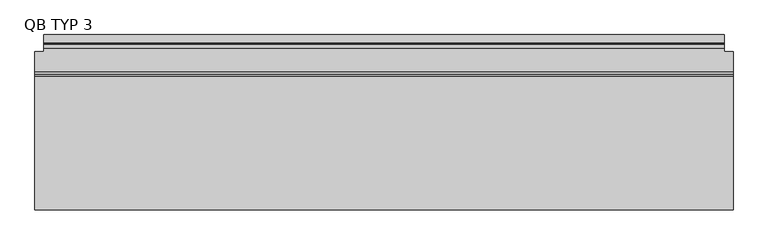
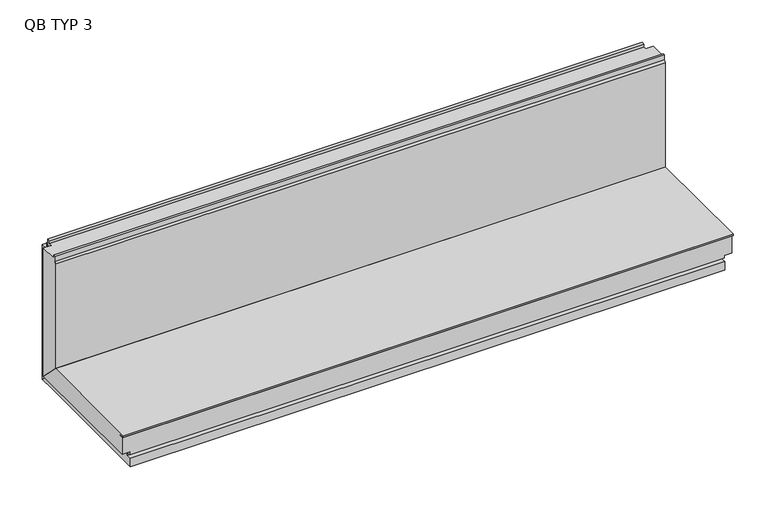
"""IFC4 building model written with IfcOpenShell, lengths in millimetres: plate geometry, TR_C_H_QBISS_Corner_Long_B : QB TYP 3."""

from ifc_helpers import new_model, si_unit, frame, origin, place, context, project, spatial, polyline, outline, extrude, faceted_brep, source, transform, mapped, element, save


def qb_typ_3_665156d4(model_context):
    return source(origin(), model_context, "Body", "SolidModel", [
        extrude(outline(polyline([(-24.0, 494.5), (-24.0, 474.5), (-25.4998317, 474.5), (-25.4998317, 481.3023028), (-27.9998293, 481.3023028), (-27.9998293, 480.5023028), (-28.7998428, 480.5023028), (-28.7998428, 488.5023593), (-27.9998293, 488.5023593), (-27.9998293, 487.7023593), (-25.4998317, 487.7023593), (-25.4998317, 494.5), (-24.0, 494.5)])), frame((-985.05, 0.0, 0.0), z_axis=(1.0, 0.0, 0.0), x_axis=(0.0, 1.0, 0.0)), (0.0, 0.0, 1.0), 1970.1),
        faceted_brep([(1010.15, -120.0, 120.0), (1010.15, -508.0, 120.0), (1010.15, -508.0, 114.0), (1010.15, -487.0, 114.0), (1010.15, -487.0, 108.0), (1010.15, -500.0, 108.0), (1010.15, -500.0, 49.0), (1010.15, -49.0, 49.0), (-1010.15, -500.0, 108.0), (-1010.15, -487.0, 108.0), (-1010.15, -487.0, 114.0), (-1010.15, -508.0, 114.0), (-1010.15, -508.0, 120.0), (-1010.15, -120.0, 120.0), (-1010.15, -49.0, 49.0), (-1010.15, -500.0, 49.0), (985.05, -49.0, 49.0), (985.05, 0.0, 0.0), (-985.05, 0.0, 0.0), (-985.05, -49.0, 49.0), (-985.05, -500.0, 49.0), (-985.05, -500.0, 39.0), (985.05, -500.0, 39.0), (985.05, -500.0, 49.0), (-985.05, -487.0, 39.0), (985.05, -487.0, 39.0), (-985.05, -487.0, 29.0), (985.05, -487.0, 29.0), (-985.05, -504.0, 29.0), (985.05, -504.0, 29.0), (-985.05, -504.0, 0.0), (985.05, -504.0, 0.0), (985.05, -49.0, 0.0), (-985.05, -49.0, 0.0)], [[[0, 1, 2, 3, 4, 5, 6, 7]], [[8, 9, 10, 11, 12, 13, 14, 15]], [[13, 0, 7, 16, 17, 18, 19, 14]], [[1, 0, 13, 12]], [[2, 1, 12, 11]], [[3, 2, 11, 10]], [[4, 3, 10, 9]], [[5, 4, 9, 8]], [[5, 8, 15, 20, 21, 22, 23, 6]], [[22, 21, 24, 25]], [[25, 24, 26, 27]], [[27, 26, 28, 29]], [[29, 28, 30, 31]], [[18, 17, 32, 31, 30, 33]], [[20, 19, 18, 33, 30, 28, 26, 24, 21]], [[19, 20, 15, 14]], [[16, 23, 22, 25, 27, 29, 31, 32, 17]], [[23, 16, 7, 6]]]),
        faceted_brep([(1010.15, -108.0, 500.0), (1010.15, -108.0, 510.0), (1010.15, -114.0, 510.0), (1010.15, -114.0, 492.0), (1010.15, -120.0, 486.0), (1010.15, -120.0, 120.0), (1010.15, -49.0, 49.0), (1010.15, -49.0, 500.0), (-1010.15, -120.0, 120.0), (-1010.15, -120.0, 486.0), (-1010.15, -114.0, 492.0), (-1010.15, -114.0, 510.0), (-1010.15, -108.0, 510.0), (-1010.15, -108.0, 500.0), (-1010.15, -49.0, 500.0), (-1010.15, -49.0, 49.0), (985.05, 0.0, 473.0), (985.05, 0.0, 0.0), (-985.05, 0.0, 0.0), (-985.05, 0.0, 473.0), (985.05, -29.0, 473.0), (-985.05, -29.0, 473.0), (985.05, -29.0, 510.0), (-985.05, -29.0, 510.0), (985.05, -39.0, 510.0), (-985.05, -39.0, 510.0), (985.05, -39.0, 500.0), (-985.05, -39.0, 500.0), (985.05, -49.0, 500.0), (-985.05, -49.0, 500.0), (-985.05, -49.0, 49.0), (985.05, -49.0, 49.0)], [[[0, 1, 2, 3, 4, 5, 6, 7]], [[8, 9, 10, 11, 12, 13, 14, 15]], [[16, 17, 18, 19]], [[20, 16, 19, 21]], [[22, 20, 21, 23]], [[24, 22, 23, 25]], [[26, 24, 25, 27]], [[13, 0, 7, 28, 26, 27, 29, 14]], [[1, 0, 13, 12]], [[2, 1, 12, 11]], [[3, 2, 11, 10]], [[4, 3, 10, 9]], [[5, 4, 9, 8]], [[5, 8, 15, 30, 18, 17, 31, 6]], [[28, 31, 17, 16, 20, 22, 24, 26]], [[31, 28, 7, 6]], [[29, 30, 15, 14]], [[30, 29, 27, 25, 23, 21, 19, 18]]]),
    ])


if __name__ == "__main__":
    model = new_model("IFC4")
    model_context = context("Model", 3, world=origin())
    ifc_project = project(units=[si_unit("LENGTHUNIT", "METRE", prefix="MILLI")], contexts=[model_context])
    site = spatial("IfcSite", under=ifc_project)
    building = spatial("IfcBuilding", under=site)
    placement = place(None, origin())
    qb_typ_3_shape = qb_typ_3_665156d4(model_context)
    element("IfcPlate", 1, ObjectType="TR_C_H_QBISS_Corner_Long_B : QB TYP 3", at=placement, inside=building, context=model_context, shape_type="MappedRepresentation", body=[
        mapped(qb_typ_3_shape, transform((0.0, 0.0, 0.0), x_axis=(1.0, 0.0, 0.0), y_axis=(0.0, 1.0, 0.0), z_axis=(0.0, 0.0, 1.0))),
    ])
    save(model, "model.ifc")
